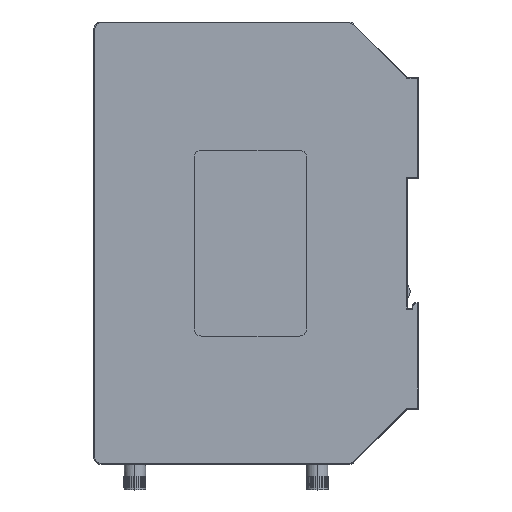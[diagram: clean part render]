
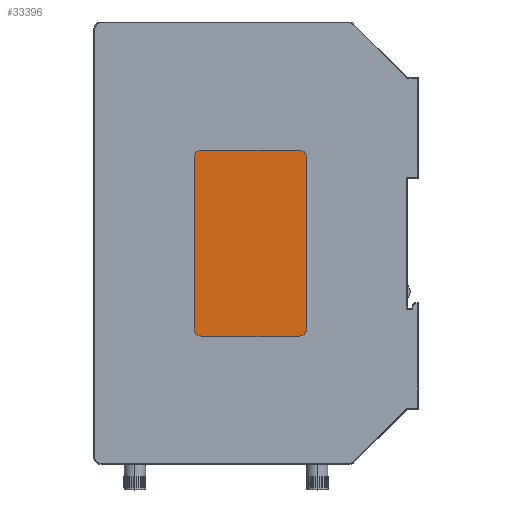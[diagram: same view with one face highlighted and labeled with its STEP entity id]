
A CAD part, top view. The second image highlights one B-rep face of the part: STEP entity #33396.
In plain terms, the highlighted planar face has unit normal (0, 0, 1).
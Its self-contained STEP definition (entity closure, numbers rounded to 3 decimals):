
#5599 = ORIENTED_EDGE ( 'NONE', *, *, #24224, .T. ) ;
#5709 = CARTESIAN_POINT ( 'NONE',  ( -27.683, -39.039, 144.096 ) ) ;
#5735 = CIRCLE ( 'NONE', #48988, 2. ) ;
#7632 = VERTEX_POINT ( 'NONE', #54534 ) ;
#9325 = ORIENTED_EDGE ( 'NONE', *, *, #79599, .T. ) ;
#11857 = EDGE_CURVE ( 'NONE', #99242, #88915, #22066, .T. ) ;
#12252 = ORIENTED_EDGE ( 'NONE', *, *, #49085, .T. ) ;
#13695 = CARTESIAN_POINT ( 'NONE',  ( -16.594, -51.813, 144.096 ) ) ;
#16259 = CARTESIAN_POINT ( 'NONE',  ( 0.817, 9.461, 144.096 ) ) ;
#17103 = CARTESIAN_POINT ( 'NONE',  ( -29.683, -39.039, 144.096 ) ) ;
#17736 = LINE ( 'NONE', #102634, #67642 ) ;
#19091 = DIRECTION ( 'NONE',  ( 0., -1., 0. ) ) ;
#20534 = VECTOR ( 'NONE', #98508, 1000. ) ;
#22066 = CIRCLE ( 'NONE', #101880, 2. ) ;
#24224 = EDGE_CURVE ( 'NONE', #32568, #99242, #17736, .T. ) ;
#28849 = DIRECTION ( 'NONE',  ( 0., 0., 1. ) ) ;
#30054 = VERTEX_POINT ( 'NONE', #94782 ) ;
#31078 = CARTESIAN_POINT ( 'NONE',  ( 0.817, 7.461, 144.096 ) ) ;
#31090 = CIRCLE ( 'NONE', #87624, 2. ) ;
#32568 = VERTEX_POINT ( 'NONE', #96484 ) ;
#32876 = CARTESIAN_POINT ( 'NONE',  ( -1.183, -39.039, 144.096 ) ) ;
#33396 = ADVANCED_FACE ( 'NONE', ( #59554 ), #67878, .T. ) ;
#34696 = EDGE_CURVE ( 'NONE', #7632, #80060, #87596, .T. ) ;
#34974 = LINE ( 'NONE', #49547, #20534 ) ;
#35754 = AXIS2_PLACEMENT_3D ( 'NONE', #32876, #47083, #88575 ) ;
#39517 = ORIENTED_EDGE ( 'NONE', *, *, #52089, .T. ) ;
#41892 = CARTESIAN_POINT ( 'NONE',  ( -29.683, -41.039, 144.096 ) ) ;
#43142 = CARTESIAN_POINT ( 'NONE',  ( -27.683, 7.461, 144.096 ) ) ;
#45529 = ORIENTED_EDGE ( 'NONE', *, *, #34696, .T. ) ;
#46188 = ORIENTED_EDGE ( 'NONE', *, *, #65390, .T. ) ;
#47083 = DIRECTION ( 'NONE',  ( 0., 0., 1. ) ) ;
#47086 = ORIENTED_EDGE ( 'NONE', *, *, #84168, .T. ) ;
#48017 = DIRECTION ( 'NONE',  ( 0., 1., 0. ) ) ;
#48988 = AXIS2_PLACEMENT_3D ( 'NONE', #5709, #59890, #91629 ) ;
#49085 = EDGE_CURVE ( 'NONE', #80060, #32568, #31090, .T. ) ;
#49547 = CARTESIAN_POINT ( 'NONE',  ( -29.683, 9.461, 144.096 ) ) ;
#52089 = EDGE_CURVE ( 'NONE', #88915, #79776, #34974, .T. ) ;
#54534 = CARTESIAN_POINT ( 'NONE',  ( 0.817, -39.039, 144.096 ) ) ;
#55957 = LINE ( 'NONE', #41892, #82792 ) ;
#59167 = DIRECTION ( 'NONE',  ( 0., 0., 1. ) ) ;
#59554 = FACE_OUTER_BOUND ( 'NONE', #76408, .T. ) ;
#59890 = DIRECTION ( 'NONE',  ( 0., 0., 1. ) ) ;
#65390 = EDGE_CURVE ( 'NONE', #80037, #30054, #55957, .T. ) ;
#67642 = VECTOR ( 'NONE', #96357, 1000. ) ;
#67878 = PLANE ( 'NONE',  #78652 ) ;
#68905 = DIRECTION ( 'NONE',  ( 0., 1., 0. ) ) ;
#72601 = CARTESIAN_POINT ( 'NONE',  ( -27.683, 9.461, 144.096 ) ) ;
#73114 = DIRECTION ( 'NONE',  ( 1., 0., 0. ) ) ;
#76408 = EDGE_LOOP ( 'NONE', ( #46188, #47086, #45529, #12252, #5599, #77024, #39517, #9325 ) ) ;
#76519 = VECTOR ( 'NONE', #48017, 1000. ) ;
#77024 = ORIENTED_EDGE ( 'NONE', *, *, #11857, .T. ) ;
#77429 = CARTESIAN_POINT ( 'NONE',  ( -27.683, -41.039, 144.096 ) ) ;
#78652 = AXIS2_PLACEMENT_3D ( 'NONE', #13695, #28849, #68905 ) ;
#79599 = EDGE_CURVE ( 'NONE', #79776, #80037, #5735, .T. ) ;
#79776 = VERTEX_POINT ( 'NONE', #17103 ) ;
#80037 = VERTEX_POINT ( 'NONE', #77429 ) ;
#80060 = VERTEX_POINT ( 'NONE', #31078 ) ;
#80625 = CIRCLE ( 'NONE', #35754, 2. ) ;
#82685 = DIRECTION ( 'NONE',  ( 0., -1., 0. ) ) ;
#82792 = VECTOR ( 'NONE', #73114, 1000. ) ;
#84168 = EDGE_CURVE ( 'NONE', #30054, #7632, #80625, .T. ) ;
#87596 = LINE ( 'NONE', #16259, #76519 ) ;
#87624 = AXIS2_PLACEMENT_3D ( 'NONE', #98220, #59167, #19091 ) ;
#88575 = DIRECTION ( 'NONE',  ( 0., -1., 0. ) ) ;
#88915 = VERTEX_POINT ( 'NONE', #102408 ) ;
#91629 = DIRECTION ( 'NONE',  ( 0., -1., 0. ) ) ;
#94782 = CARTESIAN_POINT ( 'NONE',  ( -1.183, -41.039, 144.096 ) ) ;
#96357 = DIRECTION ( 'NONE',  ( -1., 0., 0. ) ) ;
#96484 = CARTESIAN_POINT ( 'NONE',  ( -1.183, 9.461, 144.096 ) ) ;
#97304 = DIRECTION ( 'NONE',  ( 0., 0., 1. ) ) ;
#98220 = CARTESIAN_POINT ( 'NONE',  ( -1.183, 7.461, 144.096 ) ) ;
#98508 = DIRECTION ( 'NONE',  ( 0., -1., 0. ) ) ;
#99242 = VERTEX_POINT ( 'NONE', #72601 ) ;
#101880 = AXIS2_PLACEMENT_3D ( 'NONE', #43142, #97304, #82685 ) ;
#102408 = CARTESIAN_POINT ( 'NONE',  ( -29.683, 7.461, 144.096 ) ) ;
#102634 = CARTESIAN_POINT ( 'NONE',  ( -29.683, 9.461, 144.096 ) ) ;
